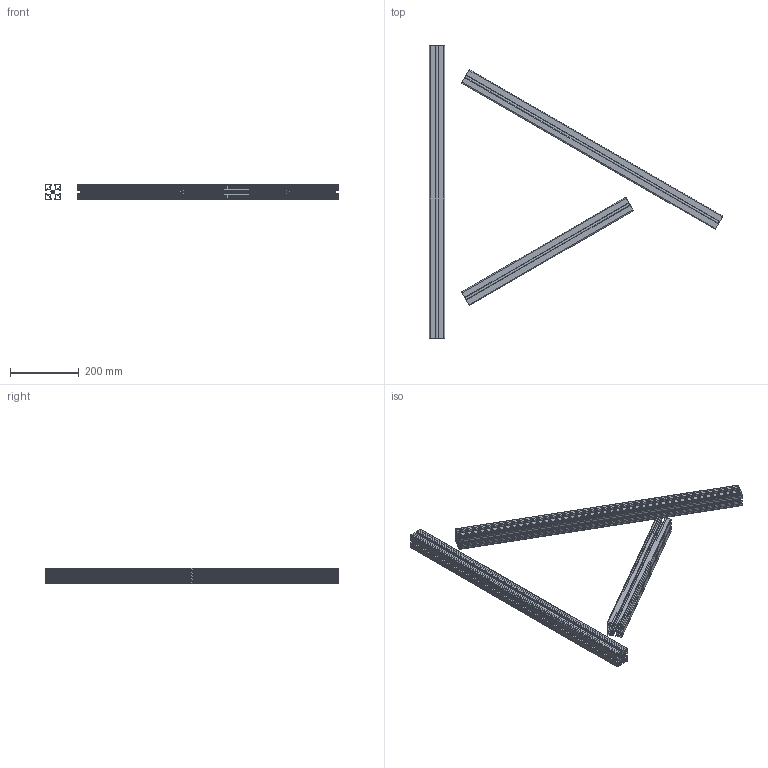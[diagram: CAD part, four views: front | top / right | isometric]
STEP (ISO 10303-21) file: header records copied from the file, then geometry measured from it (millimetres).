
FILE_DESCRIPTION (( 'STEP AP203' ), '1' );
FILE_NAME ('084.106.510.STEP', '2013-01-24T10:54:37', ( 'Alusic' ), ( 'Alusic' ), 'SwSTEP 2.0', 'SolidWorks 2011', '' );
FILE_SCHEMA (( 'CONFIG_CONTROL_DESIGN' ));
Length unit declared in the file: millimetre
Products named in the file (1): 084.106.510
Bounding box: 853.02 x 850 x 45 mm (x, y, z)
Volume: 1261994.4 mm3; surface area: 1270678.3 mm2
Topology: 3 solids, 3 shells, 417 faces, 1233 edges, 822 vertices
Faces by surface type: plane 222, cylinder 195
Entity records: 14150 total; most frequent: CARTESIAN_POINT 2473, ORIENTED_EDGE 2466, DIRECTION 2459, EDGE_CURVE 1233, VECTOR 843, LINE 843, VERTEX_POINT 822, AXIS2_PLACEMENT_3D 808
